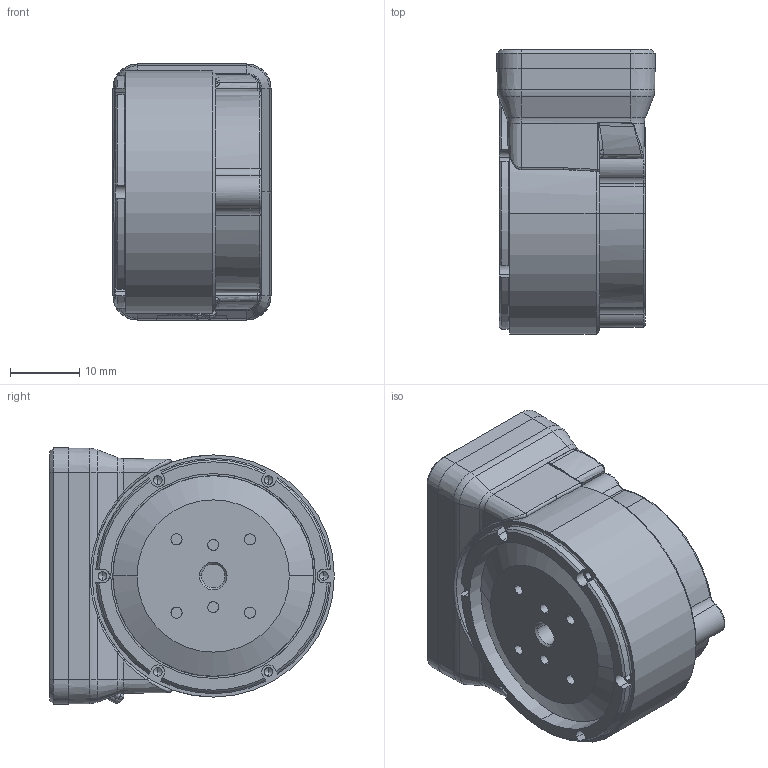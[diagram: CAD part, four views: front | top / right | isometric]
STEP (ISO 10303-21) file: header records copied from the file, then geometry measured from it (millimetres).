
FILE_DESCRIPTION (( 'STEP AP214' ), '1' );
FILE_NAME ('DD-EL20_v2_3.STEP', '2019-07-19T02:55:48', ( 'Microsoft' ), ( 'Microsoft' ), 'SwSTEP 2.0', 'SolidWorks 2018', '' );
FILE_SCHEMA (( 'AUTOMOTIVE_DESIGN' ));
Length unit declared in the file: millimetre
Products named in the file (1): DD-EL20_v2_3
Bounding box: 22.85 x 41.13 x 37 mm (x, y, z)
Volume: 21017.4 mm3; surface area: 18785.7 mm2
Topology: 18 solids, 18 shells, 1059 faces, 2537 edges, 1484 vertices
Faces by surface type: cylinder 374, plane 288, cone 246, bspline 72, torus 53, sphere 26
Entity records: 46232 total; most frequent: CARTESIAN_POINT 11192, ORIENTED_EDGE 4988, DIRECTION 4572, EDGE_CURVE 2494, AXIS2_PLACEMENT_3D 1690, VERTEX_POINT 1483, LINE 1192, VECTOR 1192
